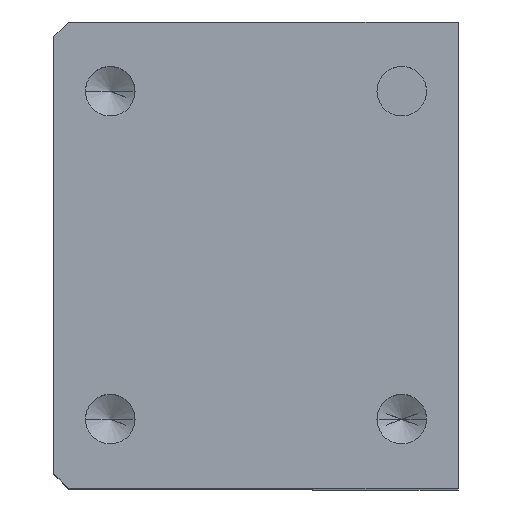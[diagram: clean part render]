
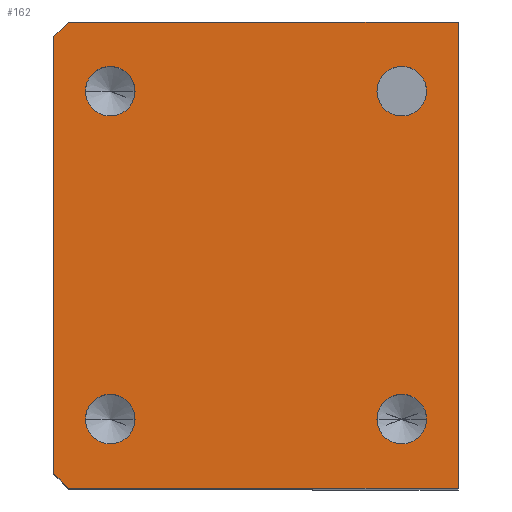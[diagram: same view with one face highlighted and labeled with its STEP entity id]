
A CAD part, top view. The second image highlights one B-rep face of the part: STEP entity #162.
In plain terms, the highlighted planar face has unit normal (0, 0, 1).
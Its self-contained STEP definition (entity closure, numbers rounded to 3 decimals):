
#4 = VECTOR ( 'NONE', #922, 1000. ) ;
#16 = DIRECTION ( 'NONE',  ( 0., 0., 1. ) ) ;
#17 = DIRECTION ( 'NONE',  ( 1., 0., 0. ) ) ;
#20 = EDGE_CURVE ( 'NONE', #1268, #1111, #996, .T. ) ;
#29 = EDGE_CURVE ( 'NONE', #1299, #780, #583, .T. ) ;
#45 = EDGE_CURVE ( 'NONE', #184, #990, #1373, .T. ) ;
#49 = CARTESIAN_POINT ( 'NONE',  ( -23.4, 22.5, 137.05 ) ) ;
#63 = DIRECTION ( 'NONE',  ( 1., 0., 0. ) ) ;
#68 = CARTESIAN_POINT ( 'NONE',  ( 16.6, 22.5, 137.05 ) ) ;
#78 = AXIS2_PLACEMENT_3D ( 'NONE', #329, #16, #224 ) ;
#90 = EDGE_LOOP ( 'NONE', ( #970, #312, #860, #1178, #1032, #1391 ) ) ;
#95 = EDGE_CURVE ( 'NONE', #1200, #1298, #366, .T. ) ;
#110 = DIRECTION ( 'NONE',  ( -0.707, -0.707, 0. ) ) ;
#120 = VERTEX_POINT ( 'NONE', #68 ) ;
#161 = VERTEX_POINT ( 'NONE', #49 ) ;
#162 = ADVANCED_FACE ( 'NONE', ( #477, #507, #1369, #1345, #166 ), #605, .F. ) ;
#163 = CARTESIAN_POINT ( 'NONE',  ( -27.75, -30., 137.05 ) ) ;
#166 = FACE_OUTER_BOUND ( 'NONE', #90, .T. ) ;
#184 = VERTEX_POINT ( 'NONE', #828 ) ;
#224 = DIRECTION ( 'NONE',  ( 1., 0., 0. ) ) ;
#243 = LINE ( 'NONE', #1190, #634 ) ;
#260 = CARTESIAN_POINT ( 'NONE',  ( -27.75, 32., 137.05 ) ) ;
#267 = DIRECTION ( 'NONE',  ( 1., 0., 0. ) ) ;
#270 = DIRECTION ( 'NONE',  ( 0., 0., -1. ) ) ;
#279 = AXIS2_PLACEMENT_3D ( 'NONE', #790, #1223, #345 ) ;
#312 = ORIENTED_EDGE ( 'NONE', *, *, #454, .T. ) ;
#320 = CARTESIAN_POINT ( 'NONE',  ( -20., -22.5, 137.05 ) ) ;
#323 = VERTEX_POINT ( 'NONE', #1006 ) ;
#329 = CARTESIAN_POINT ( 'NONE',  ( 20., 22.5, 137.05 ) ) ;
#333 = DIRECTION ( 'NONE',  ( 0.707, -0.707, 0. ) ) ;
#336 = ORIENTED_EDGE ( 'NONE', *, *, #447, .F. ) ;
#338 = DIRECTION ( 'NONE',  ( 0., -1., 0. ) ) ;
#339 = DIRECTION ( 'NONE',  ( 0., 0., 1. ) ) ;
#340 = ORIENTED_EDGE ( 'NONE', *, *, #371, .F. ) ;
#342 = ORIENTED_EDGE ( 'NONE', *, *, #1197, .F. ) ;
#345 = DIRECTION ( 'NONE',  ( 1., 0., 0. ) ) ;
#350 = DIRECTION ( 'NONE',  ( 1., 0., 0. ) ) ;
#354 = CARTESIAN_POINT ( 'NONE',  ( 20., -22.5, 137.05 ) ) ;
#360 = CARTESIAN_POINT ( 'NONE',  ( -20., 22.5, 137.05 ) ) ;
#364 = LINE ( 'NONE', #794, #870 ) ;
#366 = LINE ( 'NONE', #1030, #4 ) ;
#371 = EDGE_CURVE ( 'NONE', #120, #323, #559, .T. ) ;
#375 = CIRCLE ( 'NONE', #1154, 3.4 ) ;
#388 = CARTESIAN_POINT ( 'NONE',  ( -23.4, -22.5, 137.05 ) ) ;
#425 = EDGE_LOOP ( 'NONE', ( #519, #342 ) ) ;
#446 = CARTESIAN_POINT ( 'NONE',  ( -25.75, -32., 137.05 ) ) ;
#447 = EDGE_CURVE ( 'NONE', #780, #1299, #1307, .T. ) ;
#454 = EDGE_CURVE ( 'NONE', #1387, #1268, #243, .T. ) ;
#477 = FACE_BOUND ( 'NONE', #425, .T. ) ;
#482 = EDGE_LOOP ( 'NONE', ( #1120, #977 ) ) ;
#492 = CARTESIAN_POINT ( 'NONE',  ( 0., 0., 137.05 ) ) ;
#507 = FACE_BOUND ( 'NONE', #707, .T. ) ;
#515 = CARTESIAN_POINT ( 'NONE',  ( -27.75, 30., 137.05 ) ) ;
#519 = ORIENTED_EDGE ( 'NONE', *, *, #1064, .F. ) ;
#520 = CIRCLE ( 'NONE', #637, 3.4 ) ;
#537 = AXIS2_PLACEMENT_3D ( 'NONE', #492, #270, #1155 ) ;
#542 = EDGE_CURVE ( 'NONE', #985, #1200, #364, .T. ) ;
#559 = CIRCLE ( 'NONE', #78, 3.4 ) ;
#577 = DIRECTION ( 'NONE',  ( 0., 0., 1. ) ) ;
#583 = CIRCLE ( 'NONE', #941, 3.4 ) ;
#597 = VERTEX_POINT ( 'NONE', #836 ) ;
#605 = PLANE ( 'NONE',  #537 ) ;
#616 = DIRECTION ( 'NONE',  ( 0., 0., 1. ) ) ;
#634 = VECTOR ( 'NONE', #110, 1000. ) ;
#637 = AXIS2_PLACEMENT_3D ( 'NONE', #1366, #809, #63 ) ;
#663 = CARTESIAN_POINT ( 'NONE',  ( -20., -22.5, 137.05 ) ) ;
#692 = CARTESIAN_POINT ( 'NONE',  ( 27.75, -32., 137.05 ) ) ;
#707 = EDGE_LOOP ( 'NONE', ( #1282, #340 ) ) ;
#709 = CARTESIAN_POINT ( 'NONE',  ( -25.75, -32., 137.05 ) ) ;
#711 = AXIS2_PLACEMENT_3D ( 'NONE', #320, #1330, #350 ) ;
#714 = CARTESIAN_POINT ( 'NONE',  ( 27.75, 32., 137.05 ) ) ;
#722 = EDGE_LOOP ( 'NONE', ( #336, #964 ) ) ;
#780 = VERTEX_POINT ( 'NONE', #804 ) ;
#790 = CARTESIAN_POINT ( 'NONE',  ( 20., -22.5, 137.05 ) ) ;
#791 = DIRECTION ( 'NONE',  ( 1., 0., 0. ) ) ;
#794 = CARTESIAN_POINT ( 'NONE',  ( -27.75, -32., 137.05 ) ) ;
#804 = CARTESIAN_POINT ( 'NONE',  ( -16.6, -22.5, 137.05 ) ) ;
#805 = AXIS2_PLACEMENT_3D ( 'NONE', #354, #339, #17 ) ;
#809 = DIRECTION ( 'NONE',  ( 0., 0., 1. ) ) ;
#828 = CARTESIAN_POINT ( 'NONE',  ( 23.4, -22.5, 137.05 ) ) ;
#829 = VECTOR ( 'NONE', #333, 1000. ) ;
#836 = CARTESIAN_POINT ( 'NONE',  ( -16.6, 22.5, 137.05 ) ) ;
#852 = AXIS2_PLACEMENT_3D ( 'NONE', #1034, #616, #925 ) ;
#856 = CARTESIAN_POINT ( 'NONE',  ( -25.75, 32., 137.05 ) ) ;
#857 = EDGE_CURVE ( 'NONE', #1111, #985, #1202, .T. ) ;
#860 = ORIENTED_EDGE ( 'NONE', *, *, #20, .T. ) ;
#870 = VECTOR ( 'NONE', #267, 1000. ) ;
#878 = DIRECTION ( 'NONE',  ( 0., 0., 1. ) ) ;
#922 = DIRECTION ( 'NONE',  ( 0., 1., 0. ) ) ;
#925 = DIRECTION ( 'NONE',  ( 1., 0., 0. ) ) ;
#941 = AXIS2_PLACEMENT_3D ( 'NONE', #663, #878, #1095 ) ;
#964 = ORIENTED_EDGE ( 'NONE', *, *, #29, .F. ) ;
#970 = ORIENTED_EDGE ( 'NONE', *, *, #1094, .T. ) ;
#977 = ORIENTED_EDGE ( 'NONE', *, *, #1136, .F. ) ;
#982 = CARTESIAN_POINT ( 'NONE',  ( -27.75, -32., 137.05 ) ) ;
#985 = VERTEX_POINT ( 'NONE', #709 ) ;
#990 = VERTEX_POINT ( 'NONE', #1269 ) ;
#996 = LINE ( 'NONE', #982, #1284 ) ;
#1006 = CARTESIAN_POINT ( 'NONE',  ( 23.4, 22.5, 137.05 ) ) ;
#1030 = CARTESIAN_POINT ( 'NONE',  ( 27.75, -32., 137.05 ) ) ;
#1032 = ORIENTED_EDGE ( 'NONE', *, *, #542, .T. ) ;
#1034 = CARTESIAN_POINT ( 'NONE',  ( -20., 22.5, 137.05 ) ) ;
#1064 = EDGE_CURVE ( 'NONE', #597, #161, #1289, .T. ) ;
#1075 = EDGE_CURVE ( 'NONE', #323, #120, #520, .T. ) ;
#1082 = CIRCLE ( 'NONE', #805, 3.4 ) ;
#1094 = EDGE_CURVE ( 'NONE', #1298, #1387, #1238, .T. ) ;
#1095 = DIRECTION ( 'NONE',  ( 1., 0., 0. ) ) ;
#1111 = VERTEX_POINT ( 'NONE', #163 ) ;
#1120 = ORIENTED_EDGE ( 'NONE', *, *, #45, .F. ) ;
#1136 = EDGE_CURVE ( 'NONE', #990, #184, #1082, .T. ) ;
#1154 = AXIS2_PLACEMENT_3D ( 'NONE', #360, #577, #791 ) ;
#1155 = DIRECTION ( 'NONE',  ( -1., 0., 0. ) ) ;
#1178 = ORIENTED_EDGE ( 'NONE', *, *, #857, .T. ) ;
#1190 = CARTESIAN_POINT ( 'NONE',  ( -27.75, 30., 137.05 ) ) ;
#1197 = EDGE_CURVE ( 'NONE', #161, #597, #375, .T. ) ;
#1200 = VERTEX_POINT ( 'NONE', #692 ) ;
#1202 = LINE ( 'NONE', #446, #829 ) ;
#1223 = DIRECTION ( 'NONE',  ( 0., 0., 1. ) ) ;
#1238 = LINE ( 'NONE', #260, #1239 ) ;
#1239 = VECTOR ( 'NONE', #1355, 1000. ) ;
#1268 = VERTEX_POINT ( 'NONE', #515 ) ;
#1269 = CARTESIAN_POINT ( 'NONE',  ( 16.6, -22.5, 137.05 ) ) ;
#1282 = ORIENTED_EDGE ( 'NONE', *, *, #1075, .F. ) ;
#1284 = VECTOR ( 'NONE', #338, 1000. ) ;
#1289 = CIRCLE ( 'NONE', #852, 3.4 ) ;
#1298 = VERTEX_POINT ( 'NONE', #714 ) ;
#1299 = VERTEX_POINT ( 'NONE', #388 ) ;
#1307 = CIRCLE ( 'NONE', #711, 3.4 ) ;
#1330 = DIRECTION ( 'NONE',  ( 0., 0., 1. ) ) ;
#1345 = FACE_BOUND ( 'NONE', #482, .T. ) ;
#1355 = DIRECTION ( 'NONE',  ( -1., 0., 0. ) ) ;
#1366 = CARTESIAN_POINT ( 'NONE',  ( 20., 22.5, 137.05 ) ) ;
#1369 = FACE_BOUND ( 'NONE', #722, .T. ) ;
#1373 = CIRCLE ( 'NONE', #279, 3.4 ) ;
#1387 = VERTEX_POINT ( 'NONE', #856 ) ;
#1391 = ORIENTED_EDGE ( 'NONE', *, *, #95, .T. ) ;
